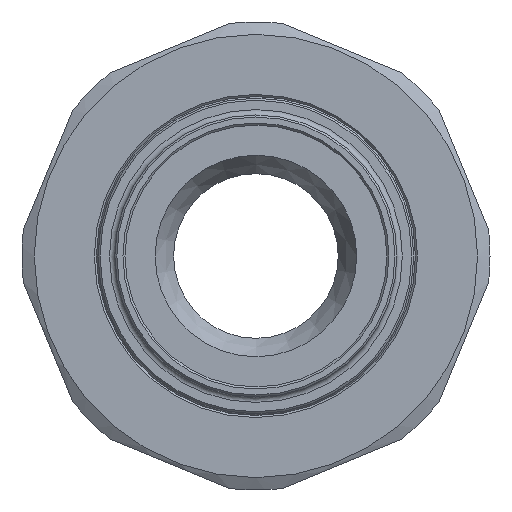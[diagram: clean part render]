
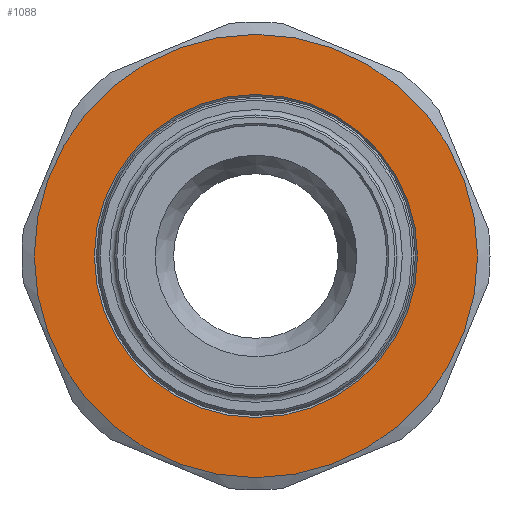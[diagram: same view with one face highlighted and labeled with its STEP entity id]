
A CAD part, left-side view. The second image highlights one B-rep face of the part: STEP entity #1088.
In plain terms, the highlighted planar face has unit normal (-1, 0, 0).
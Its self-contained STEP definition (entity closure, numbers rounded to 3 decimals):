
#64=FACE_BOUND('',#188,.T.);
#75=PLANE('',#1234);
#119=FACE_OUTER_BOUND('',#187,.T.);
#187=EDGE_LOOP('',(#750));
#188=EDGE_LOOP('',(#751));
#370=CIRCLE('',#1233,24.05);
#371=CIRCLE('',#1235,33.);
#462=VERTEX_POINT('',#1797);
#463=VERTEX_POINT('',#1801);
#574=EDGE_CURVE('',#462,#462,#370,.T.);
#576=EDGE_CURVE('',#463,#463,#371,.T.);
#750=ORIENTED_EDGE('',*,*,#576,.T.);
#751=ORIENTED_EDGE('',*,*,#574,.F.);
#1088=ADVANCED_FACE('',(#119,#64),#75,.T.);
#1233=AXIS2_PLACEMENT_3D('',#1798,#1415,#1416);
#1234=AXIS2_PLACEMENT_3D('',#1800,#1418,#1419);
#1235=AXIS2_PLACEMENT_3D('',#1802,#1420,#1421);
#1415=DIRECTION('center_axis',(-1.,0.,0.));
#1416=DIRECTION('ref_axis',(0.,1.,0.));
#1418=DIRECTION('center_axis',(-1.,0.,0.));
#1419=DIRECTION('ref_axis',(0.,0.,1.));
#1420=DIRECTION('center_axis',(-1.,0.,0.));
#1421=DIRECTION('ref_axis',(0.,1.,0.));
#1797=CARTESIAN_POINT('',(-23.,-24.05,0.));
#1798=CARTESIAN_POINT('Origin',(-23.,0.,0.));
#1800=CARTESIAN_POINT('Origin',(-23.,0.,0.));
#1801=CARTESIAN_POINT('',(-23.,-33.,0.));
#1802=CARTESIAN_POINT('Origin',(-23.,0.,0.));
